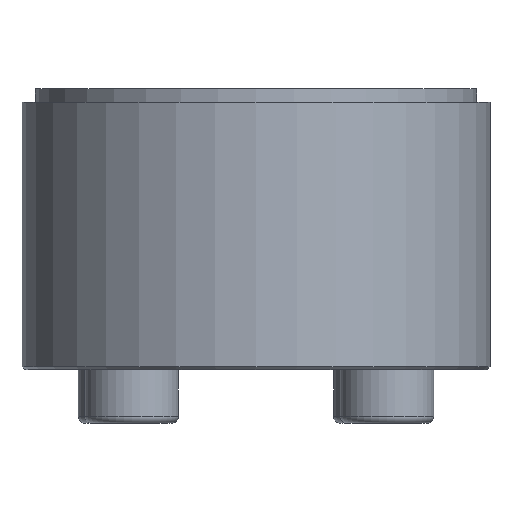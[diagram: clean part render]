
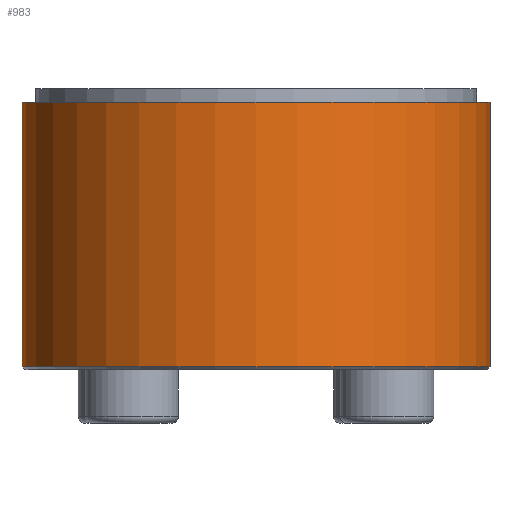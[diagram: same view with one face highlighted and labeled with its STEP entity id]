
A CAD part, front view. The second image highlights one B-rep face of the part: STEP entity #983.
In plain terms, the highlighted cylindrical face has radius 17.5 mm (diameter 35 mm), a partial arc.
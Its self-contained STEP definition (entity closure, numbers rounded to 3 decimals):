
#79 = DIRECTION ( 'NONE',  ( -1., 0., 0. ) ) ;
#149 = CIRCLE ( 'NONE', #558, 17.5 ) ;
#211 = CYLINDRICAL_SURFACE ( 'NONE', #902, 17.5 ) ;
#214 = EDGE_CURVE ( 'NONE', #1556, #1465, #1249, .T. ) ;
#222 = ORIENTED_EDGE ( 'NONE', *, *, #250, .T. ) ;
#247 = DIRECTION ( 'NONE',  ( 1., 0., 0. ) ) ;
#250 = EDGE_CURVE ( 'NONE', #1020, #591, #149, .T. ) ;
#251 = DIRECTION ( 'NONE',  ( 0., 0., -1. ) ) ;
#384 = EDGE_CURVE ( 'NONE', #591, #1556, #907, .T. ) ;
#402 = FACE_OUTER_BOUND ( 'NONE', #1444, .T. ) ;
#439 = CARTESIAN_POINT ( 'NONE',  ( 17.5, 0., -10.3 ) ) ;
#458 = AXIS2_PLACEMENT_3D ( 'NONE', #1448, #771, #79 ) ;
#558 = AXIS2_PLACEMENT_3D ( 'NONE', #944, #1623, #247 ) ;
#591 = VERTEX_POINT ( 'NONE', #1096 ) ;
#597 = CARTESIAN_POINT ( 'NONE',  ( -17.5, 0., -10.3 ) ) ;
#766 = DIRECTION ( 'NONE',  ( -1., 0., 0. ) ) ;
#771 = DIRECTION ( 'NONE',  ( 0., 0., 1. ) ) ;
#875 = DIRECTION ( 'NONE',  ( 0., 0., -1. ) ) ;
#902 = AXIS2_PLACEMENT_3D ( 'NONE', #1596, #1026, #766 ) ;
#907 = LINE ( 'NONE', #1062, #1087 ) ;
#926 = LINE ( 'NONE', #1086, #1763 ) ;
#944 = CARTESIAN_POINT ( 'NONE',  ( 0., 0., 9.5 ) ) ;
#983 = ADVANCED_FACE ( 'NONE', ( #402 ), #211, .T. ) ;
#1020 = VERTEX_POINT ( 'NONE', #1072 ) ;
#1026 = DIRECTION ( 'NONE',  ( 0., 0., -1. ) ) ;
#1062 = CARTESIAN_POINT ( 'NONE',  ( -17.5, 0., 0. ) ) ;
#1072 = CARTESIAN_POINT ( 'NONE',  ( 17.5, 0., 9.5 ) ) ;
#1086 = CARTESIAN_POINT ( 'NONE',  ( 17.5, 0., 0. ) ) ;
#1087 = VECTOR ( 'NONE', #875, 1000. ) ;
#1096 = CARTESIAN_POINT ( 'NONE',  ( -17.5, 0., 9.5 ) ) ;
#1190 = ORIENTED_EDGE ( 'NONE', *, *, #214, .T. ) ;
#1249 = CIRCLE ( 'NONE', #458, 17.5 ) ;
#1444 = EDGE_LOOP ( 'NONE', ( #1728, #222, #1537, #1190 ) ) ;
#1448 = CARTESIAN_POINT ( 'NONE',  ( 0., 0., -10.3 ) ) ;
#1465 = VERTEX_POINT ( 'NONE', #439 ) ;
#1537 = ORIENTED_EDGE ( 'NONE', *, *, #384, .T. ) ;
#1556 = VERTEX_POINT ( 'NONE', #597 ) ;
#1596 = CARTESIAN_POINT ( 'NONE',  ( 0., 0., 0. ) ) ;
#1623 = DIRECTION ( 'NONE',  ( 0., 0., -1. ) ) ;
#1728 = ORIENTED_EDGE ( 'NONE', *, *, #1751, .F. ) ;
#1751 = EDGE_CURVE ( 'NONE', #1020, #1465, #926, .T. ) ;
#1763 = VECTOR ( 'NONE', #251, 1000. ) ;
